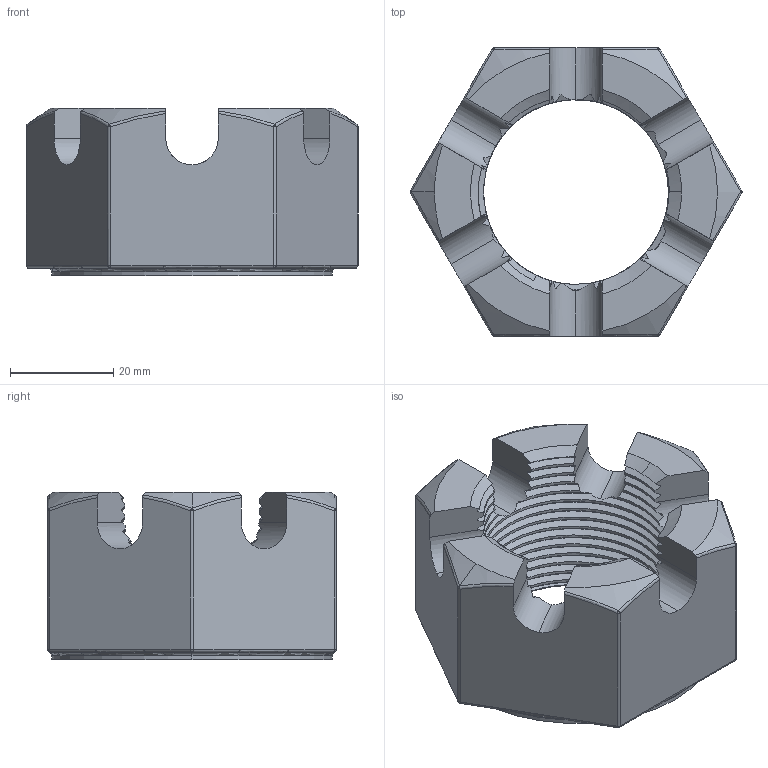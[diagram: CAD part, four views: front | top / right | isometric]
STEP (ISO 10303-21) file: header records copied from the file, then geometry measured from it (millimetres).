
FILE_DESCRIPTION (( 'STEP AP214' ), '1' );
FILE_NAME ('Rockwell 10K Castle Nut.STEP', '2025-11-09T16:43:36', ( '' ), ( '' ), 'SwSTEP 2.0', 'SolidWorks 2023', '' );
FILE_SCHEMA (( 'AUTOMOTIVE_DESIGN' ));
Length unit declared in the file: inch
Products named in the file (1): Rockwell 10K Castle Nut
Bounding box: 64.32 x 55.87 x 32.38 mm (x, y, z)
Volume: 46239.9 mm3; surface area: 14606.1 mm2
Topology: 1 solids, 1 shells, 253 faces, 708 edges, 450 vertices
Faces by surface type: bspline 105, cylinder 84, plane 31, cone 16, sphere 15, torus 2
Entity records: 70794 total; most frequent: CARTESIAN_POINT 65721, ORIENTED_EDGE 1402, EDGE_CURVE 701, DIRECTION 635, VERTEX_POINT 449, B_SPLINE_CURVE_WITH_KNOTS 323, EDGE_LOOP 254, FACE_OUTER_BOUND 253
